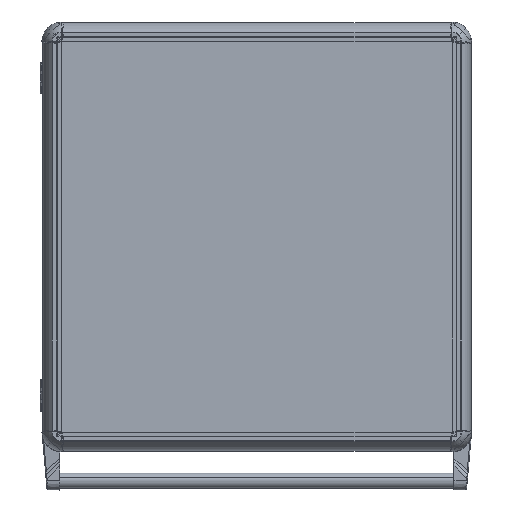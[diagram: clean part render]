
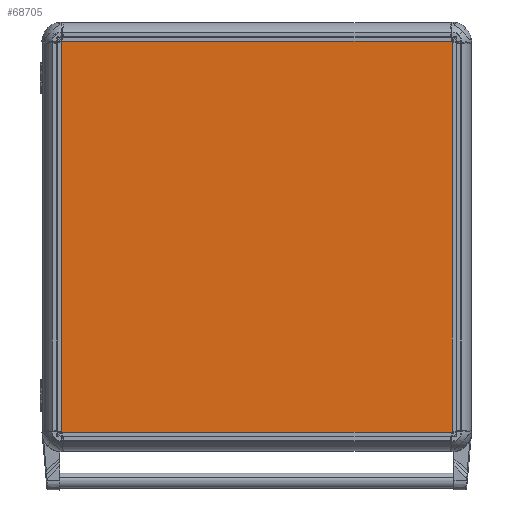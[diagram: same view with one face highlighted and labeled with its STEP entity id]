
A CAD part, top view. The second image highlights one B-rep face of the part: STEP entity #68705.
In plain terms, the highlighted planar face has unit normal (0, 0, 1).
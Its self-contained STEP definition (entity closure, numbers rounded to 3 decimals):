
#5100 = EDGE_CURVE ( 'NONE', #190589, #123332, #169593, .T. ) ;
#10303 = CARTESIAN_POINT ( 'NONE',  ( 250., -250., 2. ) ) ;
#10404 = CARTESIAN_POINT ( 'NONE',  ( -250., 250., 2. ) ) ;
#27560 = LINE ( 'NONE', #169041, #103169 ) ;
#41061 = DIRECTION ( 'NONE',  ( 1., 0., 0. ) ) ;
#45939 = VERTEX_POINT ( 'NONE', #186621 ) ;
#60634 = VECTOR ( 'NONE', #106491, 1000. ) ;
#62746 = ORIENTED_EDGE ( 'NONE', *, *, #5100, .T. ) ;
#65356 = VECTOR ( 'NONE', #206007, 1000. ) ;
#68705 = ADVANCED_FACE ( 'NONE', ( #182517 ), #180260, .T. ) ;
#84940 = DIRECTION ( 'NONE',  ( -1., 0., 0. ) ) ;
#95890 = DIRECTION ( 'NONE',  ( 0., 0., 1. ) ) ;
#101269 = EDGE_CURVE ( 'NONE', #123332, #45939, #189853, .T. ) ;
#103169 = VECTOR ( 'NONE', #114363, 1000. ) ;
#104972 = ORIENTED_EDGE ( 'NONE', *, *, #110803, .T. ) ;
#106491 = DIRECTION ( 'NONE',  ( 0., 1., 0. ) ) ;
#107404 = CARTESIAN_POINT ( 'NONE',  ( -250., -250., 2. ) ) ;
#110803 = EDGE_CURVE ( 'NONE', #186301, #190589, #27560, .T. ) ;
#113440 = ORIENTED_EDGE ( 'NONE', *, *, #170047, .T. ) ;
#114363 = DIRECTION ( 'NONE',  ( 0., -1., 0. ) ) ;
#114677 = AXIS2_PLACEMENT_3D ( 'NONE', #216634, #95890, #41061 ) ;
#118024 = LINE ( 'NONE', #169294, #157487 ) ;
#123332 = VERTEX_POINT ( 'NONE', #10303 ) ;
#130737 = ORIENTED_EDGE ( 'NONE', *, *, #101269, .T. ) ;
#132050 = CARTESIAN_POINT ( 'NONE',  ( -250., -250., 2. ) ) ;
#140508 = EDGE_LOOP ( 'NONE', ( #130737, #113440, #104972, #62746 ) ) ;
#157487 = VECTOR ( 'NONE', #84940, 1000. ) ;
#169041 = CARTESIAN_POINT ( 'NONE',  ( -250., 250., 2. ) ) ;
#169294 = CARTESIAN_POINT ( 'NONE',  ( -250., 250., 2. ) ) ;
#169593 = LINE ( 'NONE', #132050, #65356 ) ;
#170047 = EDGE_CURVE ( 'NONE', #45939, #186301, #118024, .T. ) ;
#180260 = PLANE ( 'NONE',  #114677 ) ;
#182517 = FACE_OUTER_BOUND ( 'NONE', #140508, .T. ) ;
#186301 = VERTEX_POINT ( 'NONE', #10404 ) ;
#186621 = CARTESIAN_POINT ( 'NONE',  ( 250., 250., 2. ) ) ;
#188702 = CARTESIAN_POINT ( 'NONE',  ( 250., 250., 2. ) ) ;
#189853 = LINE ( 'NONE', #188702, #60634 ) ;
#190589 = VERTEX_POINT ( 'NONE', #107404 ) ;
#206007 = DIRECTION ( 'NONE',  ( 1., 0., 0. ) ) ;
#216634 = CARTESIAN_POINT ( 'NONE',  ( 0., 0., 2. ) ) ;
